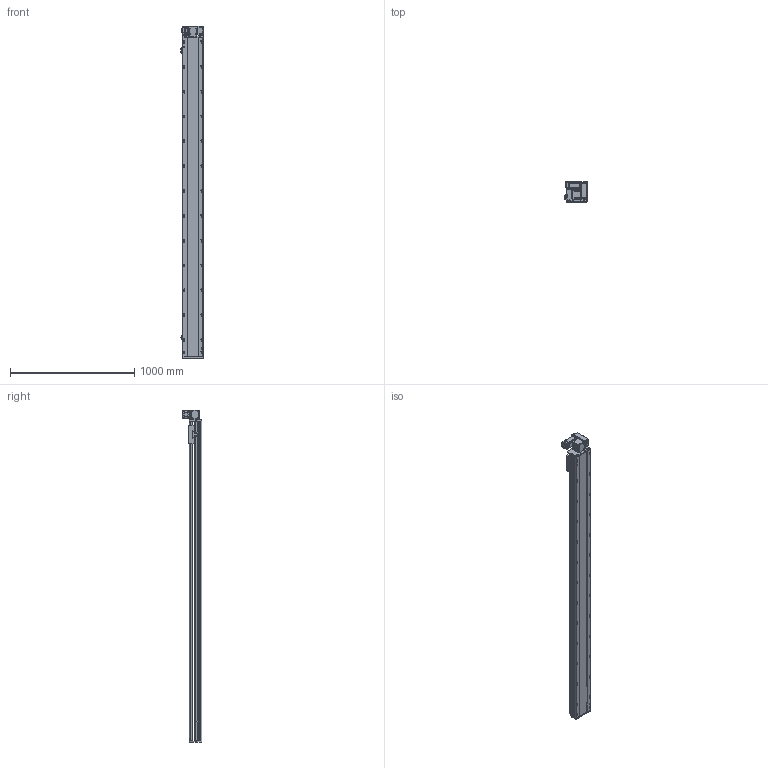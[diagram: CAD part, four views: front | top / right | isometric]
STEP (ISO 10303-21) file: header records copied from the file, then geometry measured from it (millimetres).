
FILE_DESCRIPTION (( 'STEP AP214' ), '1' );
FILE_NAME ('RTB17S-XX-2300-RW-M40-C4.STEP', '2025-12-11T09:11:51', ( '' ), ( '' ), 'SwSTEP 2.0', 'SolidWorks 2018', '' );
FILE_SCHEMA (( 'AUTOMOTIVE_DESIGN' ));
Length unit declared in the file: millimetre
Products named in the file (14): RTH13-BL-012覜茼え俋离^RTB17S-XX-XX-RW-M40-C4; RTB14-L-005P--轴承塑胶压盖^RTB17S-RW-皮带座装配-400W_RTB17S-XX-XX-RW-M40-C4; RTB17S-XX-2300-RW-M40-C4; RTB14-L-018P^RTB17S-RW-々湍釱蚾饜-400W_RTB17S-XX-XX-RW-M40-C4; RTB17S-L-004佪裝蹟譫蟀諉釱^RTB17S-XX-XX-RW-M40-C4; RTB17-R-011菁釱^RTB17S-XX-XX-RW-M40-C4; RTB17S-L-001耜醱啣^RTB17S-XX-XX-RW-M40-C4; OMRON EE-SX672 传感器^RTB17S-XX-XX-RW-M40-C4; RTB17S-L-007奻裔^RTB17S-XX-XX-RW-M40-C4; 400W侜督萇儂^RTB17S-XX-XX-RW-M40-C4; RTB14-L-017P^RTB17S-RW-々湍釱蚾饜-400W_RTB17S-XX-XX-RW-M40-C4; RTB17S-RW-々湍釱蚾饜-400W^RTB17S-XX-XX-RW-M40-C4; RMP17S-L-014-T20--々湍釱^RTB17S-RW-々湍釱蚾饜-400W_RTB17S-XX-XX-RW-M40-C4; RTB14-L-008-M20--萇儂啣^RTB17S-RW-々湍釱蚾饜-400W_RTB17S-XX-XX-RW-M40-C4
Assembly tree (16 placements, depth 3):
  RTB17S-XX-2300-RW-M40-C4
    RTB17-R-011菁釱^RTB17S-XX-XX-RW-M40-C4
    RTB17S-L-007奻裔^RTB17S-XX-XX-RW-M40-C4
    OMRON EE-SX672 传感器^RTB17S-XX-XX-RW-M40-C4  x3
    RTB17S-L-001耜醱啣^RTB17S-XX-XX-RW-M40-C4
    400W侜督萇儂^RTB17S-XX-XX-RW-M40-C4
    RTB17S-L-004佪裝蹟譫蟀諉釱^RTB17S-XX-XX-RW-M40-C4
    RTH13-BL-012覜茼え俋离^RTB17S-XX-XX-RW-M40-C4
    RTB17S-RW-々湍釱蚾饜-400W^RTB17S-XX-XX-RW-M40-C4
      RMP17S-L-014-T20--々湍釱^RTB17S-RW-々湍釱蚾饜-400W_RTB17S-XX-XX-RW-M40-C4
      RTB14-L-005P--轴承塑胶压盖^RTB17S-RW-皮带座装配-400W_RTB17S-XX-XX-RW-M40-C4
      RTB14-L-008-M20--萇儂啣^RTB17S-RW-々湍釱蚾饜-400W_RTB17S-XX-XX-RW-M40-C4
      RTB14-L-017P^RTB17S-RW-々湍釱蚾饜-400W_RTB17S-XX-XX-RW-M40-C4  x2
      RTB14-L-018P^RTB17S-RW-々湍釱蚾饜-400W_RTB17S-XX-XX-RW-M40-C4
Bounding box: 183.5 x 160.5 x 2672.5 mm (x, y, z)
Volume: 22973120.9 mm3; surface area: 2655042.9 mm2
Topology: 15 solids, 15 shells, 2317 faces, 6465 edges, 4221 vertices
Faces by surface type: plane 1082, cylinder 787, bspline 301, cone 139, torus 8
Entity records: 68009 total; most frequent: CARTESIAN_POINT 19270, ORIENTED_EDGE 9774, DIRECTION 9026, EDGE_CURVE 4887, VERTEX_POINT 3209, AXIS2_PLACEMENT_3D 3139, LINE 2748, VECTOR 2748
